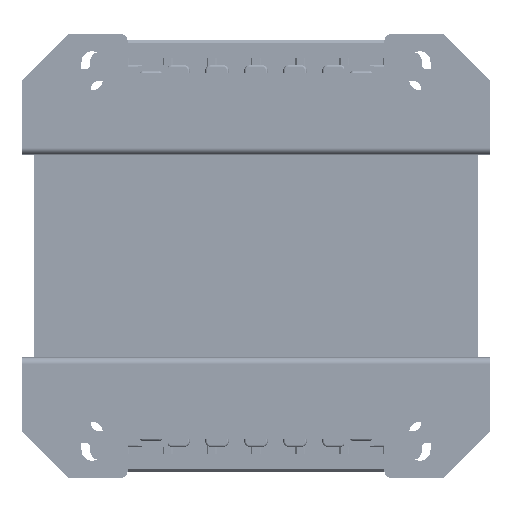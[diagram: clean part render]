
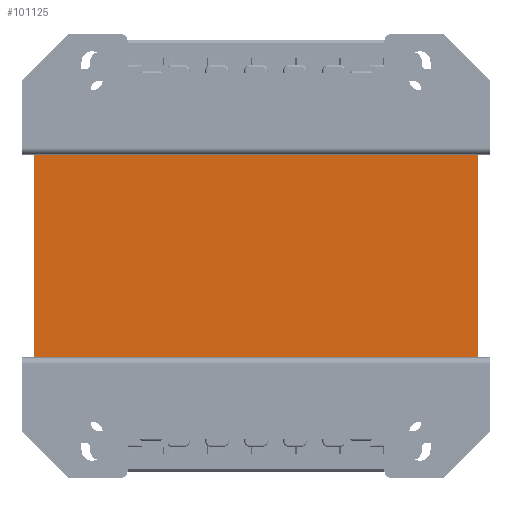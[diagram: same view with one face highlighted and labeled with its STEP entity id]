
A CAD part, front view. The second image highlights one B-rep face of the part: STEP entity #101125.
In plain terms, the highlighted planar face has unit normal (0, -1, 0).
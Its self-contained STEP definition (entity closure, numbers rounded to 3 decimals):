
#514 = ORIENTED_EDGE ( 'NONE', *, *, #10259, .T. ) ;
#5586 = VECTOR ( 'NONE', #45661, 1000. ) ;
#7679 = LINE ( 'NONE', #90982, #81767 ) ;
#9026 = EDGE_CURVE ( 'NONE', #33785, #114475, #7679, .T. ) ;
#10259 = EDGE_CURVE ( 'NONE', #84094, #96798, #45127, .T. ) ;
#11666 = ORIENTED_EDGE ( 'NONE', *, *, #115414, .T. ) ;
#14833 = CARTESIAN_POINT ( 'NONE',  ( -57., -47.5, 26. ) ) ;
#15400 = AXIS2_PLACEMENT_3D ( 'NONE', #123716, #17859, #85448 ) ;
#17574 = ORIENTED_EDGE ( 'NONE', *, *, #9026, .F. ) ;
#17859 = DIRECTION ( 'NONE',  ( 0., 1., 0. ) ) ;
#19416 = VECTOR ( 'NONE', #31946, 1000. ) ;
#24562 = DIRECTION ( 'NONE',  ( 0., 0., -1. ) ) ;
#31222 = LINE ( 'NONE', #35925, #5586 ) ;
#31946 = DIRECTION ( 'NONE',  ( 1., 0., 0. ) ) ;
#33785 = VERTEX_POINT ( 'NONE', #51899 ) ;
#35925 = CARTESIAN_POINT ( 'NONE',  ( 57., -47.5, 26. ) ) ;
#40683 = LINE ( 'NONE', #14833, #114637 ) ;
#41255 = CARTESIAN_POINT ( 'NONE',  ( -57., -47.5, -26. ) ) ;
#45127 = LINE ( 'NONE', #41255, #19416 ) ;
#45661 = DIRECTION ( 'NONE',  ( 0., 0., -1. ) ) ;
#51899 = CARTESIAN_POINT ( 'NONE',  ( -57., -47.5, 26. ) ) ;
#53880 = EDGE_CURVE ( 'NONE', #114475, #96798, #31222, .T. ) ;
#64913 = CARTESIAN_POINT ( 'NONE',  ( 57., -47.5, -26. ) ) ;
#75887 = FACE_OUTER_BOUND ( 'NONE', #102066, .T. ) ;
#79807 = CARTESIAN_POINT ( 'NONE',  ( -57., -47.5, -26. ) ) ;
#81767 = VECTOR ( 'NONE', #100682, 1000. ) ;
#84094 = VERTEX_POINT ( 'NONE', #79807 ) ;
#85448 = DIRECTION ( 'NONE',  ( 0., 0., 1. ) ) ;
#90982 = CARTESIAN_POINT ( 'NONE',  ( -57., -47.5, 26. ) ) ;
#96798 = VERTEX_POINT ( 'NONE', #64913 ) ;
#97662 = CARTESIAN_POINT ( 'NONE',  ( 57., -47.5, 26. ) ) ;
#100682 = DIRECTION ( 'NONE',  ( 1., 0., 0. ) ) ;
#101125 = ADVANCED_FACE ( 'NONE', ( #75887 ), #114044, .F. ) ;
#102066 = EDGE_LOOP ( 'NONE', ( #514, #124021, #17574, #11666 ) ) ;
#114044 = PLANE ( 'NONE',  #15400 ) ;
#114475 = VERTEX_POINT ( 'NONE', #97662 ) ;
#114637 = VECTOR ( 'NONE', #24562, 1000. ) ;
#115414 = EDGE_CURVE ( 'NONE', #33785, #84094, #40683, .T. ) ;
#123716 = CARTESIAN_POINT ( 'NONE',  ( -57., -47.5, 26. ) ) ;
#124021 = ORIENTED_EDGE ( 'NONE', *, *, #53880, .F. ) ;
